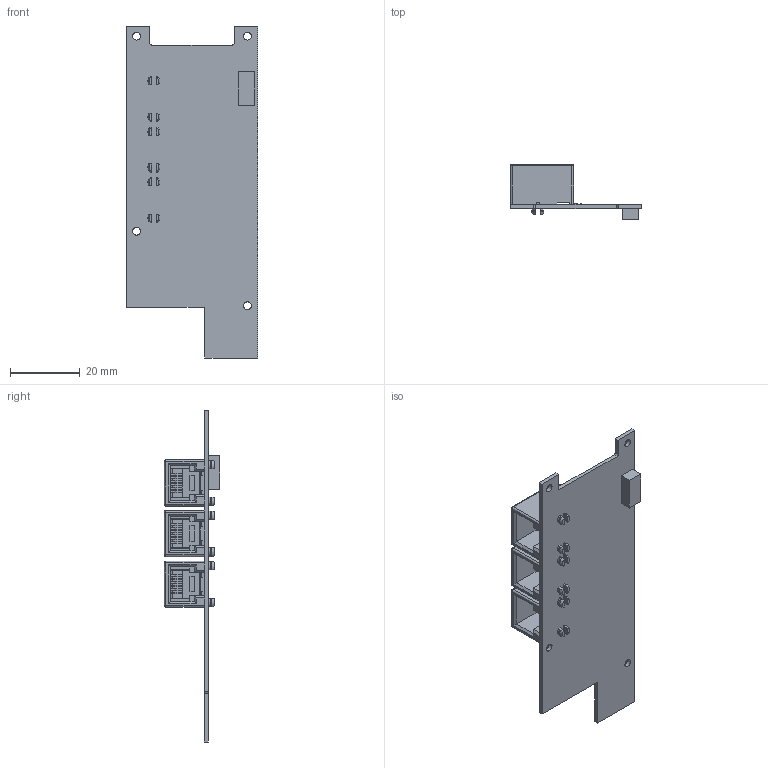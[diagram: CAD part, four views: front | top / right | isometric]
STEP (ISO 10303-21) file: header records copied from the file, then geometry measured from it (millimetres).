
FILE_DESCRIPTION(/* description */ ('VariCAD 2010-3.03 AP-214'),/* implementation_level */ '2;1');
FILE_NAME(/* name */ '0353-00-09',/* time_stamp */ '2011-01-17T18:38:18-07:00',/* author */ (''),/* organization */ (''),/* preprocessor_version */ 'ST-DEVELOPER v12',/* originating_system */ 'VariCAD 2010-3.03; kernel version (20100102)',/* authorisation */ '');
FILE_SCHEMA (('AUTOMOTIVE_DESIGN'));
Length unit declared in the file: millimetre
Products named in the file (1): Part
Bounding box: 37.59 x 16 x 95.12 mm (x, y, z)
Volume: 7652 mm3; surface area: 12186 mm2
Topology: 19 solids, 19 shells, 1444 faces, 4212 edges, 2762 vertices
Faces by surface type: plane 1019, cylinder 389, cone 24, sphere 12
Entity records: 58258 total; most frequent: CARTESIAN_POINT 8930, ORIENTED_EDGE 8424, DIRECTION 7822, EDGE_CURVE 4212, LINE 3362, VECTOR 3362, VERTEX_POINT 2762, AXIS2_PLACEMENT_3D 2230
